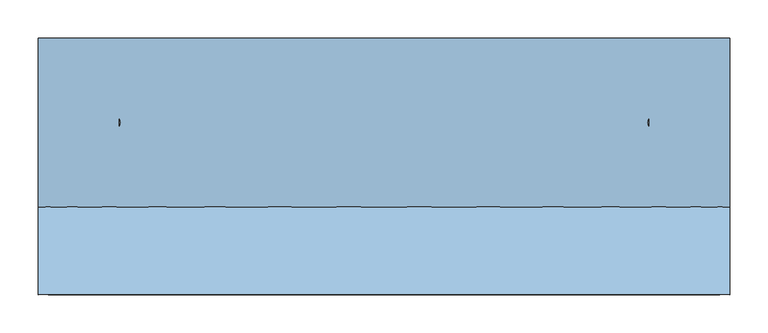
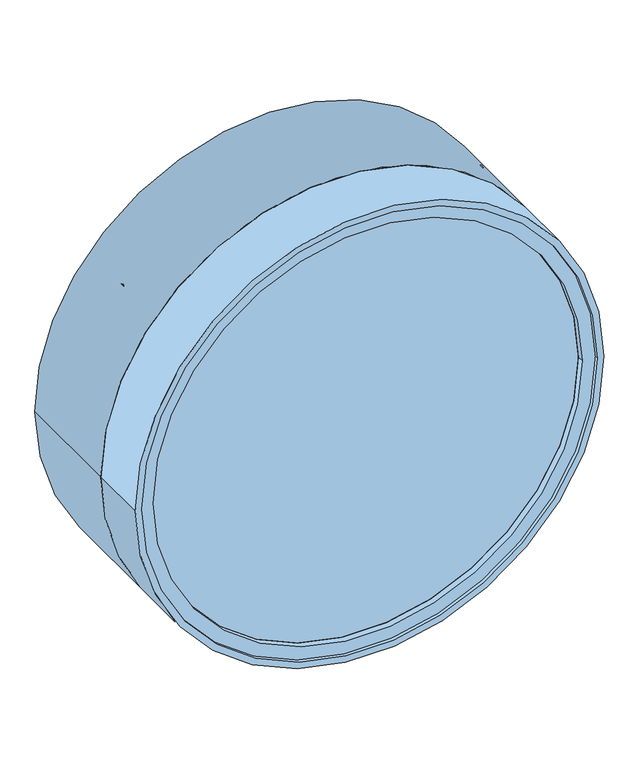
"""IFC4 building model written with IfcOpenShell, lengths in millimetres: window geometry, VENTANA_CAÑO_900 : CAÑO_900mm."""

from ifc_helpers import new_model, si_unit, point, frame, frame_2d, origin, place, context, project, spatial, polyline, circle_curve, trimmed, segment, composite_curve, outline, extrude, source, transform, mapped, element, save
from ifc_brep_helpers import plane_surface, cylinder_surface, revolved_surface, advanced_brep


def window_1ec73767(model_context):
    return source(origin(), model_context, "Body", "SolidModel", [
        extrude(outline(composite_curve([segment(trimmed(circle_curve(frame_2d((1350.0, 0.0)), 437.3), [point((1350.0, -437.3))], [point((1350.0, 437.3))], False, "CARTESIAN"), True, "CONTINUOUS"), segment(trimmed(circle_curve(frame_2d((1350.0, 0.0)), 437.3), [point((1350.0, 437.3))], [point((1350.0, -437.3))], False, "CARTESIAN"), True, "CONTINUOUS")], self_intersect=False), holes=[composite_curve([segment(trimmed(circle_curve(frame_2d((1350.0, 0.0)), 411.9), [point((1350.0, 411.9))], [point((1350.0, -411.9))], True, "CARTESIAN"), True, "CONTINUOUS"), segment(trimmed(circle_curve(frame_2d((1350.0, 0.0)), 411.9), [point((1350.0, -411.9))], [point((1350.0, 411.9))], True, "CARTESIAN"), True, "CONTINUOUS")], self_intersect=False)]), frame((0.0, -157.5, 0.0), z_axis=(0.0, 1.0, 0.0), x_axis=(0.0, 0.0, 1.0)), (0.0, 0.0, 1.0), 31.75),
        extrude(outline(composite_curve([segment(trimmed(circle_curve(frame_2d((1350.0, 0.0)), 411.9), [point((1350.0, 411.9))], [point((1350.0, -411.9))], False, "CARTESIAN"), True, "CONTINUOUS"), segment(trimmed(circle_curve(frame_2d((1350.0, 0.0)), 411.9), [point((1350.0, -411.9))], [point((1350.0, 411.9))], False, "CARTESIAN"), True, "CONTINUOUS")], self_intersect=False)), frame((0.0, -144.8, 0.0), z_axis=(0.0, 1.0, 0.0), x_axis=(0.0, 0.0, 1.0)), (0.0, 0.0, 1.0), 6.35),
        extrude(outline(composite_curve([segment(trimmed(circle_curve(frame_2d((1350.0, 0.0)), 450.0), [point((1350.0, -450.0))], [point((1350.0, 450.0))], False, "CARTESIAN"), True, "CONTINUOUS"), segment(trimmed(circle_curve(frame_2d((1350.0, 0.0)), 450.0), [point((1350.0, 450.0))], [point((1350.0, -450.0))], False, "CARTESIAN"), True, "CONTINUOUS")], self_intersect=False), holes=[composite_curve([segment(trimmed(circle_curve(frame_2d((1350.0, 0.0)), 430.95), [point((1350.0, 430.95))], [point((1350.0, -430.95))], True, "CARTESIAN"), True, "CONTINUOUS"), segment(trimmed(circle_curve(frame_2d((1350.0, 0.0)), 430.95), [point((1350.0, -430.95))], [point((1350.0, 430.95))], True, "CARTESIAN"), True, "CONTINUOUS")], self_intersect=False)]), frame((0.0, -62.25, 0.0), z_axis=(0.0, 1.0, 0.0), x_axis=(0.0, 0.0, 1.0)), (0.0, 0.0, 1.0), 219.75),
        advanced_brep(
        [(-437.3, -125.75, 1350.0), (-437.3, -176.55, 1350.0), (437.3, -176.55, 1350.0), (437.3, -125.75, 1350.0), (-450.0, -176.55, 1350.0), (450.0, -176.55, 1350.0), (418.25, -125.75, 1350.0), (-418.25, -125.75, 1350.0), (-418.25, -62.25, 1350.0), (418.25, -62.25, 1350.0), (-450.0, -62.25, 1350.0), (450.0, -62.25, 1350.0)],
        [
            (0, 1),
            (1, 2, circle_curve(frame((0.0, -176.55, 1350.0), z_axis=(0.0, -1.0, 0.0), x_axis=(1.0, 0.0, 0.0)), 437.3)),
            (2, 3),
            (3, 0, circle_curve(frame((0.0, -125.75, 1350.0), z_axis=(0.0, 1.0, 0.0), x_axis=(1.0, 0.0, 0.0)), 437.3)),
            (2, 1, circle_curve(frame((0.0, -176.55, 1350.0), z_axis=(0.0, -1.0, 0.0), x_axis=(-1.0, 0.0, 0.0)), 437.3)),
            (0, 3, circle_curve(frame((0.0, -125.75, 1350.0), z_axis=(0.0, 1.0, 0.0), x_axis=(-1.0, 0.0, 0.0)), 437.3)),
            (4, 5, circle_curve(frame((0.0, -176.55, 1350.0), z_axis=(0.0, -1.0, 0.0), x_axis=(1.0, 0.0, 0.0)), 450.0)),
            (5, 4, circle_curve(frame((0.0, -176.55, 1350.0), z_axis=(0.0, -1.0, 0.0), x_axis=(-1.0, 0.0, 0.0)), 450.0)),
            (6, 7, circle_curve(frame((0.0, -125.75, 1350.0), z_axis=(0.0, 1.0, 0.0), x_axis=(1.0, 0.0, 0.0)), 418.25)),
            (7, 6, circle_curve(frame((0.0, -125.75, 1350.0), z_axis=(0.0, 1.0, 0.0), x_axis=(-1.0, 0.0, 0.0)), 418.25)),
            (8, 7),
            (6, 9),
            (9, 8, circle_curve(frame((0.0, -62.25, 1350.0), z_axis=(0.0, 1.0, 0.0), x_axis=(1.0, 0.0, 0.0)), 418.25)),
            (4, 10),
            (10, 11, circle_curve(frame((0.0, -62.25, 1350.0), z_axis=(0.0, -1.0, 0.0), x_axis=(1.0, 0.0, 0.0)), 450.0)),
            (11, 5),
            (8, 9, circle_curve(frame((0.0, -62.25, 1350.0), z_axis=(0.0, 1.0, 0.0), x_axis=(-1.0, 0.0, 0.0)), 418.25)),
            (10, 11, circle_curve(frame((0.0, -62.25, 1350.0), z_axis=(0.0, 1.0, 0.0), x_axis=(-1.0, 0.0, 0.0)), 450.0)),
        ],
        [
            revolved_surface(polyline([(437.3, -176.55, 1350.0), (437.3, -125.75, 1350.0)]), (0.0, -170.2, 1350.0), (0.0, -1.0, 0.0)),
            revolved_surface(polyline([(-437.3, -176.55, 1350.0), (-437.3, -125.75, 1350.0)]), (0.0, -170.2, 1350.0), (0.0, -1.0, 0.0)),
            plane_surface(frame((0.0, -176.55, 1350.0), z_axis=(0.0, -1.0, 0.0), x_axis=(-1.0, 0.0, 0.0))),
            plane_surface(frame((0.0, -125.75, 1350.0), z_axis=(0.0, -1.0, 0.0), x_axis=(-1.0, 0.0, 0.0))),
            revolved_surface(polyline([(418.25, -125.75, 1350.0), (418.25, -62.25, 1350.0)]), (0.0, -170.2, 1350.0), (0.0, -1.0, 0.0)),
            cylinder_surface(frame((0.0, -170.2, 1350.0), z_axis=(0.0, -1.0, 0.0), x_axis=(1.0, 0.0, 0.0)), 450.0),
            revolved_surface(polyline([(-418.25, -125.75, 1350.0), (-418.25, -62.25, 1350.0)]), (0.0, -170.2, 1350.0), (0.0, -1.0, 0.0)),
            plane_surface(frame((0.0, -62.25, 1350.0), z_axis=(0.0, 1.0, 0.0), x_axis=(-1.0, 0.0, 0.0))),
            cylinder_surface(frame((0.0, -170.2, 1350.0), z_axis=(0.0, -1.0, 0.0), x_axis=(-1.0, 0.0, 0.0)), 450.0),
        ],
        [
            (0, [[1, 2, 3, 4]]),
            (1, [[-3, 5, -1, 6]]),
            (2, [[7, 8], [-2, -5]]),
            (3, [[-4, -6], [9, 10]]),
            (4, [[11, -9, 12, 13]]),
            (5, [[14, 15, 16, -7]]),
            (6, [[-12, -10, -11, 17]]),
            (7, [[-15, 18], [-13, -17]]),
            (8, [[-16, -18, -14, -8]]),
        ],
    ),
        extrude(outline(composite_curve([segment(trimmed(circle_curve(frame_2d((1350.0, 0.0)), 411.9), [point((1350.0, 411.9))], [point((1350.0, -411.9))], False, "CARTESIAN"), True, "CONTINUOUS"), segment(trimmed(circle_curve(frame_2d((1350.0, 0.0)), 411.9), [point((1350.0, -411.9))], [point((1350.0, 411.9))], False, "CARTESIAN"), True, "CONTINUOUS")], self_intersect=False)), frame((0.0, -157.5, 0.0), z_axis=(0.0, 1.0, 0.0), x_axis=(0.0, 0.0, 1.0)), (0.0, 0.0, 1.0), 6.35),
        extrude(outline(composite_curve([segment(trimmed(circle_curve(frame_2d((1350.0, 0.0)), 437.3), [point((1350.0, -437.3))], [point((1350.0, 437.3))], False, "CARTESIAN"), True, "CONTINUOUS"), segment(trimmed(circle_curve(frame_2d((1350.0, 0.0)), 437.3), [point((1350.0, 437.3))], [point((1350.0, -437.3))], False, "CARTESIAN"), True, "CONTINUOUS")], self_intersect=False), holes=[composite_curve([segment(trimmed(circle_curve(frame_2d((1350.0, 0.0)), 411.9), [point((1350.0, 411.9))], [point((1350.0, -411.9))], True, "CARTESIAN"), True, "CONTINUOUS"), segment(trimmed(circle_curve(frame_2d((1350.0, 0.0)), 411.9), [point((1350.0, -411.9))], [point((1350.0, 411.9))], True, "CARTESIAN"), True, "CONTINUOUS")], self_intersect=False)]), frame((0.0, -170.2, 0.0), z_axis=(0.0, 1.0, 0.0), x_axis=(0.0, 0.0, 1.0)), (0.0, 0.0, 1.0), 12.7),
        extrude(outline(composite_curve([segment(trimmed(circle_curve(frame_2d((47.625, 1070.0)), 8.0), [point((55.625, 1070.0))], [point((39.625, 1070.0))], False, "CARTESIAN"), True, "CONTINUOUS"), segment(trimmed(circle_curve(frame_2d((47.625, 1070.0)), 8.0), [point((39.625, 1070.0))], [point((55.625, 1070.0))], False, "CARTESIAN"), True, "CONTINUOUS")], self_intersect=False)), frame((-345.0, 0.0, 0.0), z_axis=(1.0, 0.0, 0.0), x_axis=(0.0, 1.0, 0.0)), (0.0, 0.0, 1.0), 690.0),
        extrude(outline(composite_curve([segment(trimmed(circle_curve(frame_2d((47.625, 1210.0)), 8.0), [point((55.625, 1210.0))], [point((39.625, 1210.0))], False, "CARTESIAN"), True, "CONTINUOUS"), segment(trimmed(circle_curve(frame_2d((47.625, 1210.0)), 8.0), [point((39.625, 1210.0))], [point((55.625, 1210.0))], False, "CARTESIAN"), True, "CONTINUOUS")], self_intersect=False)), frame((-415.0, 0.0, 0.0), z_axis=(1.0, 0.0, 0.0), x_axis=(0.0, 1.0, 0.0)), (0.0, 0.0, 1.0), 830.0),
        extrude(outline(composite_curve([segment(trimmed(circle_curve(frame_2d((47.625, 1630.0)), 8.0), [point((55.625, 1630.0))], [point((39.625, 1630.0))], False, "CARTESIAN"), True, "CONTINUOUS"), segment(trimmed(circle_curve(frame_2d((47.625, 1630.0)), 8.0), [point((39.625, 1630.0))], [point((55.625, 1630.0))], False, "CARTESIAN"), True, "CONTINUOUS")], self_intersect=False)), frame((-345.0, 0.0, 0.0), z_axis=(1.0, 0.0, 0.0), x_axis=(0.0, 1.0, 0.0)), (0.0, 0.0, 1.0), 690.0),
        extrude(outline(composite_curve([segment(trimmed(circle_curve(frame_2d((47.625, 1490.0)), 8.0), [point((55.625, 1490.0))], [point((39.625, 1490.0))], False, "CARTESIAN"), True, "CONTINUOUS"), segment(trimmed(circle_curve(frame_2d((47.625, 1490.0)), 8.0), [point((39.625, 1490.0))], [point((55.625, 1490.0))], False, "CARTESIAN"), True, "CONTINUOUS")], self_intersect=False)), frame((-415.0, 0.0, 0.0), z_axis=(1.0, 0.0, 0.0), x_axis=(0.0, 1.0, 0.0)), (0.0, 0.0, 1.0), 830.0),
        extrude(outline(composite_curve([segment(trimmed(circle_curve(frame_2d((47.625, 1350.0)), 8.0), [point((55.625, 1350.0))], [point((39.625, 1350.0))], False, "CARTESIAN"), True, "CONTINUOUS"), segment(trimmed(circle_curve(frame_2d((47.625, 1350.0)), 8.0), [point((39.625, 1350.0))], [point((55.625, 1350.0))], False, "CARTESIAN"), True, "CONTINUOUS")], self_intersect=False)), frame((-440.0, 0.0, 0.0), z_axis=(1.0, 0.0, 0.0), x_axis=(0.0, 1.0, 0.0)), (0.0, 0.0, 1.0), 880.0),
    ])


if __name__ == "__main__":
    model = new_model("IFC4")
    model_context = context("Model", 3, world=origin())
    ifc_project = project(units=[si_unit("LENGTHUNIT", "METRE", prefix="MILLI")], contexts=[model_context])
    site = spatial("IfcSite", under=ifc_project)
    building = spatial("IfcBuilding", under=site)
    placement = place(None, origin())
    window_shape = window_1ec73767(model_context)
    element("IfcWindow", 1, ObjectType="VENTANA_CAÑO_900 : CAÑO_900mm", at=placement, inside=building, context=model_context, shape_type="MappedRepresentation", body=[
        mapped(window_shape, transform((0.0, 0.0, 0.0), x_axis=(1.0, 0.0, 0.0), y_axis=(0.0, 1.0, 0.0), z_axis=(0.0, 0.0, 1.0))),
    ])
    save(model, "model.ifc")
